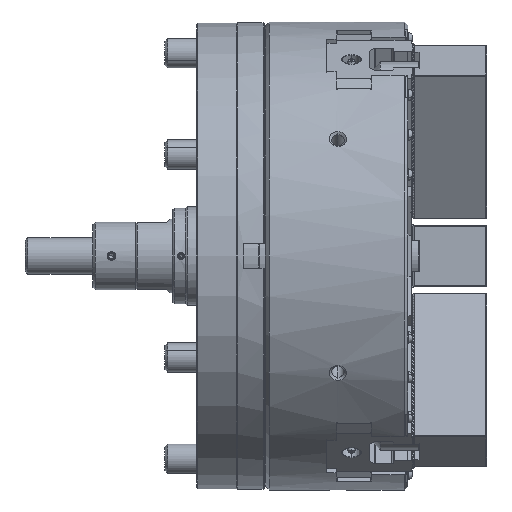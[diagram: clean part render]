
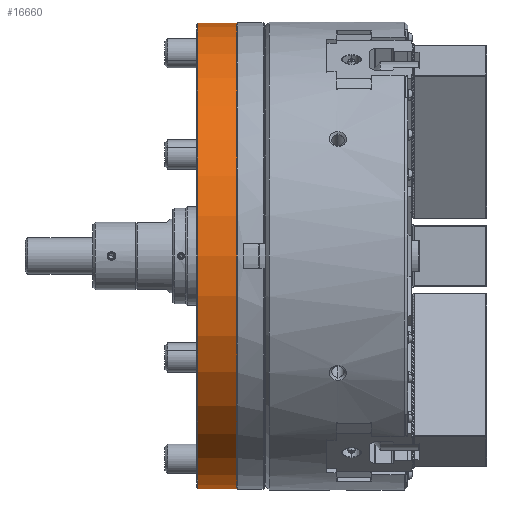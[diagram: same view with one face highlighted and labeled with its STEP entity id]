
A CAD part, front view. The second image highlights one B-rep face of the part: STEP entity #16660.
In plain terms, the highlighted cylindrical face has radius 189.5 mm (diameter 379 mm), a partial arc.
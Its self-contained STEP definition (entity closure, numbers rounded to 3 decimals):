
#147 = CARTESIAN_POINT ( 'NONE',  ( -378.898, 0., -189.5 ) ) ;
#691 = EDGE_LOOP ( 'NONE', ( #71942, #34778, #167154, #68250 ) ) ;
#2700 = CIRCLE ( 'NONE', #41622, 189.5 ) ;
#16660 = ADVANCED_FACE ( 'NONE', ( #49902 ), #156136, .T. ) ;
#18466 = VECTOR ( 'NONE', #49837, 1000. ) ;
#19877 = EDGE_CURVE ( 'NONE', #53105, #82839, #2700, .T. ) ;
#29415 = DIRECTION ( 'NONE',  ( 0., 0., 1. ) ) ;
#33047 = EDGE_CURVE ( 'NONE', #82839, #130288, #168685, .T. ) ;
#34778 = ORIENTED_EDGE ( 'NONE', *, *, #19877, .T. ) ;
#41622 = AXIS2_PLACEMENT_3D ( 'NONE', #107813, #148709, #29415 ) ;
#49218 = AXIS2_PLACEMENT_3D ( 'NONE', #103023, #63846, #143930 ) ;
#49837 = DIRECTION ( 'NONE',  ( -1., 0., 0. ) ) ;
#49902 = FACE_OUTER_BOUND ( 'NONE', #691, .T. ) ;
#50959 = CARTESIAN_POINT ( 'NONE',  ( -171., 0., 189.5 ) ) ;
#53105 = VERTEX_POINT ( 'NONE', #157228 ) ;
#55668 = DIRECTION ( 'NONE',  ( -1., 0., 0. ) ) ;
#60782 = EDGE_CURVE ( 'NONE', #53105, #77318, #170837, .T. ) ;
#63846 = DIRECTION ( 'NONE',  ( -1., 0., 0. ) ) ;
#65054 = CARTESIAN_POINT ( 'NONE',  ( -378.898, 0., 189.5 ) ) ;
#68250 = ORIENTED_EDGE ( 'NONE', *, *, #107512, .F. ) ;
#68756 = CARTESIAN_POINT ( 'NONE',  ( -171., 0., 0. ) ) ;
#71942 = ORIENTED_EDGE ( 'NONE', *, *, #60782, .F. ) ;
#77318 = VERTEX_POINT ( 'NONE', #82508 ) ;
#82508 = CARTESIAN_POINT ( 'NONE',  ( -171., 0., -189.5 ) ) ;
#82839 = VERTEX_POINT ( 'NONE', #107280 ) ;
#103023 = CARTESIAN_POINT ( 'NONE',  ( -378.898, 0., 0. ) ) ;
#103367 = DIRECTION ( 'NONE',  ( -1., 0., 0. ) ) ;
#107280 = CARTESIAN_POINT ( 'NONE',  ( -139.5, 0., 189.5 ) ) ;
#107512 = EDGE_CURVE ( 'NONE', #77318, #130288, #118971, .T. ) ;
#107813 = CARTESIAN_POINT ( 'NONE',  ( -139.5, 0., 0. ) ) ;
#107938 = AXIS2_PLACEMENT_3D ( 'NONE', #68756, #55668, #120138 ) ;
#118971 = CIRCLE ( 'NONE', #107938, 189.5 ) ;
#120138 = DIRECTION ( 'NONE',  ( 0., 0., 1. ) ) ;
#127197 = VECTOR ( 'NONE', #103367, 1000. ) ;
#130288 = VERTEX_POINT ( 'NONE', #50959 ) ;
#143930 = DIRECTION ( 'NONE',  ( 0., 0., 1. ) ) ;
#148709 = DIRECTION ( 'NONE',  ( -1., 0., 0. ) ) ;
#156136 = CYLINDRICAL_SURFACE ( 'NONE', #49218, 189.5 ) ;
#157228 = CARTESIAN_POINT ( 'NONE',  ( -139.5, 0., -189.5 ) ) ;
#167154 = ORIENTED_EDGE ( 'NONE', *, *, #33047, .T. ) ;
#168685 = LINE ( 'NONE', #65054, #127197 ) ;
#170837 = LINE ( 'NONE', #147, #18466 ) ;
